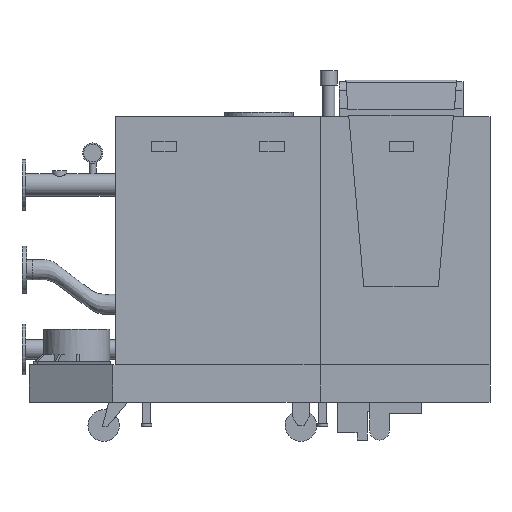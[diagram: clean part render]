
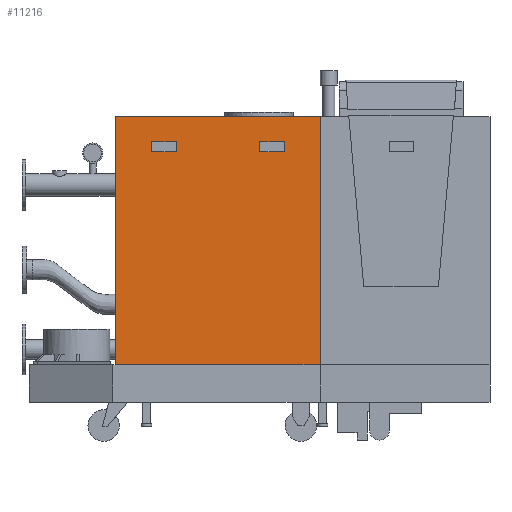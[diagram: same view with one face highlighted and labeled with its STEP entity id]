
A CAD part, front view. The second image highlights one B-rep face of the part: STEP entity #11216.
In plain terms, the highlighted planar face has unit normal (0, -1, 0).
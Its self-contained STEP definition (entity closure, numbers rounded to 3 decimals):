
#267 = VECTOR ( 'NONE', #1280, 1000. ) ;
#355 = VECTOR ( 'NONE', #2797, 1000. ) ;
#358 = VECTOR ( 'NONE', #2795, 1000. ) ;
#359 = VECTOR ( 'NONE', #2804, 1000. ) ;
#360 = VECTOR ( 'NONE', #2801, 1000. ) ;
#361 = VECTOR ( 'NONE', #2806, 1000. ) ;
#362 = VECTOR ( 'NONE', #2817, 1000. ) ;
#363 = VECTOR ( 'NONE', #2809, 1000. ) ;
#364 = VECTOR ( 'NONE', #2812, 1000. ) ;
#365 = VECTOR ( 'NONE', #2815, 1000. ) ;
#367 = VECTOR ( 'NONE', #2820, 1000. ) ;
#368 = VECTOR ( 'NONE', #2823, 1000. ) ;
#1268 = LINE ( 'NONE', #1279, #267 ) ;
#1279 = CARTESIAN_POINT ( 'NONE',  ( -689., 0., -500. ) ) ;
#1280 = DIRECTION ( 'NONE',  ( -1., 0., 0. ) ) ;
#2591 = EDGE_CURVE ( 'NONE', #16698, #16693, #1268, .T. ) ;
#2681 = EDGE_CURVE ( 'NONE', #16698, #16612, #2792, .T. ) ;
#2682 = EDGE_CURVE ( 'NONE', #16612, #16608, #2769, .T. ) ;
#2683 = EDGE_CURVE ( 'NONE', #16693, #16608, #2798, .T. ) ;
#2684 = EDGE_CURVE ( 'NONE', #16614, #16607, #2781, .T. ) ;
#2685 = EDGE_CURVE ( 'NONE', #16607, #16605, #2793, .T. ) ;
#2686 = EDGE_CURVE ( 'NONE', #16605, #16604, #2807, .T. ) ;
#2687 = EDGE_CURVE ( 'NONE', #16604, #16614, #2810, .T. ) ;
#2688 = EDGE_CURVE ( 'NONE', #16615, #16603, #2813, .T. ) ;
#2689 = EDGE_CURVE ( 'NONE', #16609, #16615, #2799, .T. ) ;
#2690 = EDGE_CURVE ( 'NONE', #16602, #16609, #2818, .T. ) ;
#2691 = EDGE_CURVE ( 'NONE', #16603, #16602, #2821, .T. ) ;
#2769 = LINE ( 'NONE', #2796, #355 ) ;
#2781 = LINE ( 'NONE', #2802, #359 ) ;
#2792 = LINE ( 'NONE', #2794, #358 ) ;
#2793 = LINE ( 'NONE', #2805, #361 ) ;
#2794 = CARTESIAN_POINT ( 'NONE',  ( 123.5, 0., 483. ) ) ;
#2795 = DIRECTION ( 'NONE',  ( 0., 0., 1. ) ) ;
#2796 = CARTESIAN_POINT ( 'NONE',  ( 126., 0., 483. ) ) ;
#2797 = DIRECTION ( 'NONE',  ( -1., 0., 0. ) ) ;
#2798 = LINE ( 'NONE', #2800, #360 ) ;
#2799 = LINE ( 'NONE', #2816, #362 ) ;
#2800 = CARTESIAN_POINT ( 'NONE',  ( -689., 0., -500. ) ) ;
#2801 = DIRECTION ( 'NONE',  ( 0., 0., 1. ) ) ;
#2802 = CARTESIAN_POINT ( 'NONE',  ( -18., 0., 343. ) ) ;
#2804 = DIRECTION ( 'NONE',  ( 0., 0., -1. ) ) ;
#2805 = CARTESIAN_POINT ( 'NONE',  ( -115.5, 0., 343. ) ) ;
#2806 = DIRECTION ( 'NONE',  ( -1., 0., 0. ) ) ;
#2807 = LINE ( 'NONE', #2808, #363 ) ;
#2808 = CARTESIAN_POINT ( 'NONE',  ( -115.5, 0., 384. ) ) ;
#2809 = DIRECTION ( 'NONE',  ( 0., 0., 1. ) ) ;
#2810 = LINE ( 'NONE', #2811, #364 ) ;
#2811 = CARTESIAN_POINT ( 'NONE',  ( -18., 0., 384. ) ) ;
#2812 = DIRECTION ( 'NONE',  ( 1., 0., 0. ) ) ;
#2813 = LINE ( 'NONE', #2814, #365 ) ;
#2814 = CARTESIAN_POINT ( 'NONE',  ( -544., 0., 343. ) ) ;
#2815 = DIRECTION ( 'NONE',  ( 0., 0., -1. ) ) ;
#2816 = CARTESIAN_POINT ( 'NONE',  ( -544., 0., 384. ) ) ;
#2817 = DIRECTION ( 'NONE',  ( -1., 0., 0. ) ) ;
#2818 = LINE ( 'NONE', #2819, #367 ) ;
#2819 = CARTESIAN_POINT ( 'NONE',  ( -446.5, 0., 384. ) ) ;
#2820 = DIRECTION ( 'NONE',  ( 0., 0., 1. ) ) ;
#2821 = LINE ( 'NONE', #2822, #368 ) ;
#2822 = CARTESIAN_POINT ( 'NONE',  ( -446.5, 0., 343. ) ) ;
#2823 = DIRECTION ( 'NONE',  ( 1., 0., 0. ) ) ;
#7181 = AXIS2_PLACEMENT_3D ( 'NONE', #11351, #11349, #11357 ) ;
#8650 = CARTESIAN_POINT ( 'NONE',  ( -446.5, 0., 343. ) ) ;
#8651 = CARTESIAN_POINT ( 'NONE',  ( -544., 0., 343. ) ) ;
#8652 = CARTESIAN_POINT ( 'NONE',  ( -115.5, 0., 384. ) ) ;
#8653 = CARTESIAN_POINT ( 'NONE',  ( -115.5, 0., 343. ) ) ;
#8655 = CARTESIAN_POINT ( 'NONE',  ( -18., 0., 343. ) ) ;
#8656 = CARTESIAN_POINT ( 'NONE',  ( -689., 0., 483. ) ) ;
#8657 = CARTESIAN_POINT ( 'NONE',  ( -446.5, 0., 384. ) ) ;
#8660 = CARTESIAN_POINT ( 'NONE',  ( 123.5, 0., 483. ) ) ;
#8662 = CARTESIAN_POINT ( 'NONE',  ( -18., 0., 384. ) ) ;
#8663 = CARTESIAN_POINT ( 'NONE',  ( -544., 0., 384. ) ) ;
#8741 = CARTESIAN_POINT ( 'NONE',  ( -689., 0., -500. ) ) ;
#8746 = CARTESIAN_POINT ( 'NONE',  ( 123.5, 0., -500. ) ) ;
#11216 = ADVANCED_FACE ( 'NONE', ( #11352, #11346, #11354 ), #11355, .F. ) ;
#11346 = FACE_BOUND ( 'NONE', #16931, .T. ) ;
#11349 = DIRECTION ( 'NONE',  ( 0., 1., 0. ) ) ;
#11351 = CARTESIAN_POINT ( 'NONE',  ( 126., 0., -500. ) ) ;
#11352 = FACE_OUTER_BOUND ( 'NONE', #16940, .T. ) ;
#11354 = FACE_BOUND ( 'NONE', #16934, .T. ) ;
#11355 = PLANE ( 'NONE',  #7181 ) ;
#11357 = DIRECTION ( 'NONE',  ( -1., 0., 0. ) ) ;
#16602 = VERTEX_POINT ( 'NONE', #8650 ) ;
#16603 = VERTEX_POINT ( 'NONE', #8651 ) ;
#16604 = VERTEX_POINT ( 'NONE', #8652 ) ;
#16605 = VERTEX_POINT ( 'NONE', #8653 ) ;
#16607 = VERTEX_POINT ( 'NONE', #8655 ) ;
#16608 = VERTEX_POINT ( 'NONE', #8656 ) ;
#16609 = VERTEX_POINT ( 'NONE', #8657 ) ;
#16612 = VERTEX_POINT ( 'NONE', #8660 ) ;
#16614 = VERTEX_POINT ( 'NONE', #8662 ) ;
#16615 = VERTEX_POINT ( 'NONE', #8663 ) ;
#16693 = VERTEX_POINT ( 'NONE', #8741 ) ;
#16698 = VERTEX_POINT ( 'NONE', #8746 ) ;
#16931 = EDGE_LOOP ( 'NONE', ( #17536, #17537, #17538, #17539 ) ) ;
#16934 = EDGE_LOOP ( 'NONE', ( #17540, #17541, #17542, #17543 ) ) ;
#16940 = EDGE_LOOP ( 'NONE', ( #17532, #17533, #17534, #17535 ) ) ;
#17532 = ORIENTED_EDGE ( 'NONE', *, *, #2591, .F. ) ;
#17533 = ORIENTED_EDGE ( 'NONE', *, *, #2681, .T. ) ;
#17534 = ORIENTED_EDGE ( 'NONE', *, *, #2682, .T. ) ;
#17535 = ORIENTED_EDGE ( 'NONE', *, *, #2683, .F. ) ;
#17536 = ORIENTED_EDGE ( 'NONE', *, *, #2684, .T. ) ;
#17537 = ORIENTED_EDGE ( 'NONE', *, *, #2685, .T. ) ;
#17538 = ORIENTED_EDGE ( 'NONE', *, *, #2686, .T. ) ;
#17539 = ORIENTED_EDGE ( 'NONE', *, *, #2687, .T. ) ;
#17540 = ORIENTED_EDGE ( 'NONE', *, *, #2688, .F. ) ;
#17541 = ORIENTED_EDGE ( 'NONE', *, *, #2689, .F. ) ;
#17542 = ORIENTED_EDGE ( 'NONE', *, *, #2690, .F. ) ;
#17543 = ORIENTED_EDGE ( 'NONE', *, *, #2691, .F. ) ;
